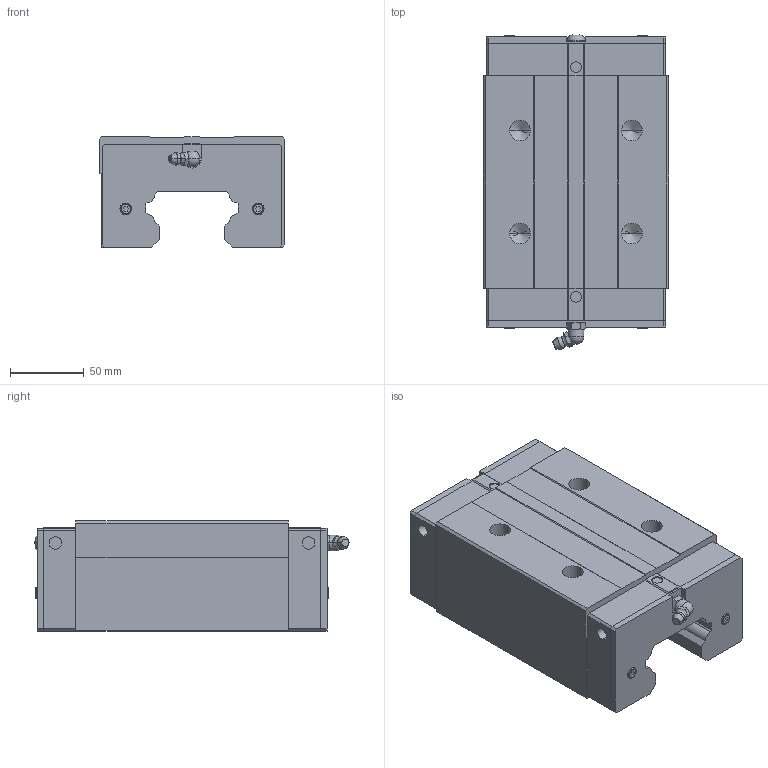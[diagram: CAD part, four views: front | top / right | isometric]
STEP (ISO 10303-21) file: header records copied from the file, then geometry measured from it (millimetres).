
FILE_DESCRIPTION(('no description'),'unknown implementation level');
FILE_NAME('HGH65CA_Z0_H_SS_14.stp',' ',('HIWIN GmbH'),('CADClick - KiM GmbH - www.kimweb.de'),'unknown preprocess','ACIS','unknown authorization');
FILE_SCHEMA(('automotive_design'));
Length unit declared in the file: millimetre
Products named in the file (1): HGH65CA Z0 H SS
Bounding box: 126 x 213.52 x 75 mm (x, y, z)
Volume: 1395436.9 mm3; surface area: 117350.3 mm2
Topology: 1 solids, 6 shells, 285 faces, 716 edges, 454 vertices
Faces by surface type: plane 171, cylinder 60, torus 30, cone 22, sphere 2
Entity records: 16692 total; most frequent: CARTESIAN_POINT 1746, STYLED_ITEM 1446, PRESENTATION_STYLE_ASSIGNMENT 1446, COLOUR_RGB 1446, DIRECTION 1428, ORIENTED_EDGE 1412, EDGE_CURVE 706, CURVE_STYLE 706
